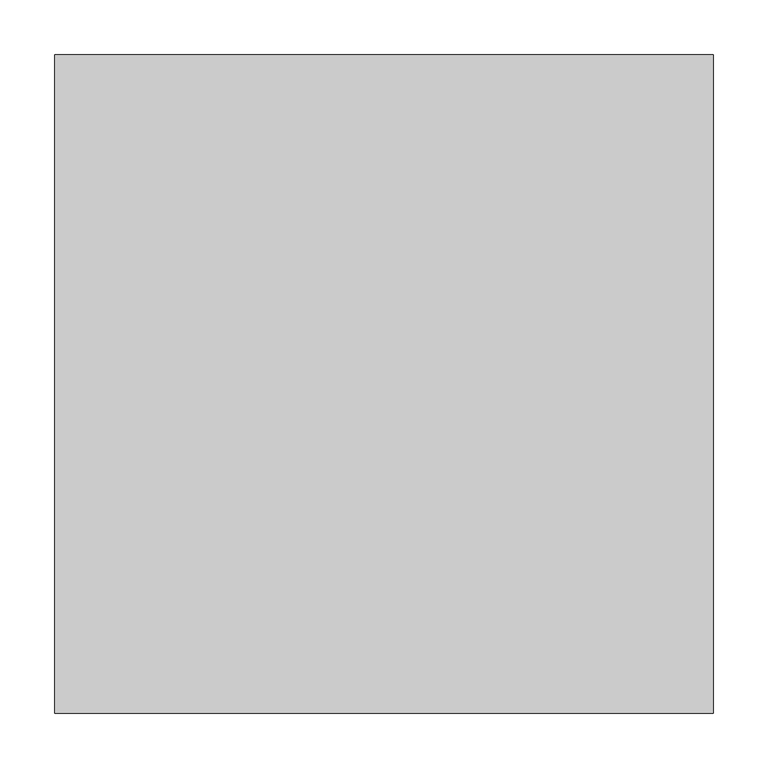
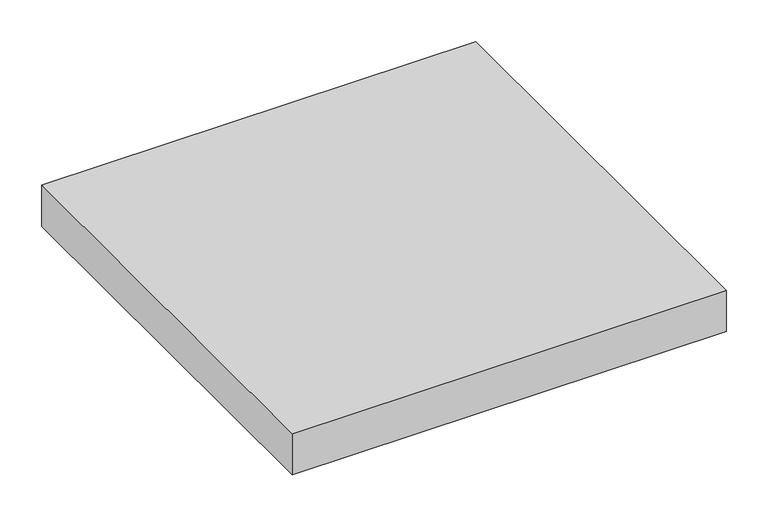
"""IFC4 building model written with IfcOpenShell, lengths in millimetres: light fixture geometry, GENILED_Светильник светодиодный_Office Clip-In Advanced : Office Clip-In Advanced 600x600x60 100Вт IP54 Матовое закаленное стекло."""

from ifc_helpers import new_model, si_unit, frame, origin, place, context, project, spatial, polyline, circle_curve, source, transform, mapped, element, save
from ifc_brep_helpers import plane_surface, revolved_surface, advanced_brep


def light_fixture_70e44551(model_context):
    return source(origin(), model_context, "Body", "AdvancedBrep", [
        advanced_brep(
        [(300.0, 300.0, 60.0), (-300.0, 300.0, 60.0), (-300.0, -300.0, 60.0), (300.0, -300.0, 60.0), (300.0, 300.0, 0.0), (300.0, -300.0, 0.0), (-300.0, -300.0, 0.0), (-300.0, 300.0, 0.0), (254.0, 264.0, 0.0), (-254.0, 264.0, 0.0), (-264.0, 254.0, 0.0), (-264.0, -254.0, 0.0), (-254.0, -264.0, 0.0), (254.0, -264.0, 0.0), (264.0, -254.0, 0.0), (264.0, 254.0, 0.0), (264.0, -254.0, 5.0), (264.0, 254.0, 5.0), (-254.0, -264.0, 5.0), (254.0, -264.0, 5.0), (-264.0, 254.0, 5.0), (-264.0, -254.0, 5.0), (254.0, 264.0, 5.0), (-254.0, 264.0, 5.0)],
        [
            (0, 1),
            (1, 2),
            (2, 3),
            (3, 0),
            (4, 5),
            (5, 6),
            (6, 7),
            (7, 4),
            (8, 9),
            (9, 10, circle_curve(frame((-254.0, 254.0, 0.0), z_axis=(0.0, 0.0, 1.0), x_axis=(1.0, 0.0, 0.0)), 10.0)),
            (10, 11),
            (11, 12, circle_curve(frame((-254.0, -254.0, 0.0), z_axis=(0.0, 0.0, 1.0), x_axis=(1.0, 0.0, 0.0)), 10.0)),
            (12, 13),
            (13, 14, circle_curve(frame((254.0, -254.0, 0.0), z_axis=(0.0, 0.0, 1.0), x_axis=(1.0, 0.0, 0.0)), 10.0)),
            (14, 15),
            (15, 8, circle_curve(frame((254.0, 254.0, 0.0), z_axis=(0.0, 0.0, 1.0), x_axis=(1.0, 0.0, 0.0)), 10.0)),
            (0, 4),
            (7, 1),
            (6, 2),
            (5, 3),
            (14, 16),
            (16, 17),
            (17, 15),
            (12, 18),
            (18, 19),
            (19, 13),
            (10, 20),
            (20, 21),
            (21, 11),
            (8, 22),
            (22, 23),
            (23, 9),
            (16, 19, circle_curve(frame((254.0, -254.0, 5.0), z_axis=(0.0, 0.0, -1.0), x_axis=(1.0, 0.0, 0.0)), 10.0)),
            (18, 21, circle_curve(frame((-254.0, -254.0, 5.0), z_axis=(0.0, 0.0, -1.0), x_axis=(1.0, 0.0, 0.0)), 10.0)),
            (20, 23, circle_curve(frame((-254.0, 254.0, 5.0), z_axis=(0.0, 0.0, -1.0), x_axis=(1.0, 0.0, 0.0)), 10.0)),
            (22, 17, circle_curve(frame((254.0, 254.0, 5.0), z_axis=(0.0, 0.0, -1.0), x_axis=(1.0, 0.0, 0.0)), 10.0)),
        ],
        [
            plane_surface(frame((-300.0, 300.0, 60.0), z_axis=(0.0, 0.0, 1.0), x_axis=(-1.0, 0.0, 0.0))),
            plane_surface(frame((-300.0, 300.0, 0.0), z_axis=(0.0, 0.0, -1.0), x_axis=(1.0, 0.0, 0.0))),
            plane_surface(frame((300.0, 300.0, 60.0), z_axis=(0.0, 1.0, 0.0), x_axis=(0.0, 0.0, -1.0))),
            plane_surface(frame((-300.0, 300.0, 60.0), z_axis=(-1.0, 0.0, 0.0), x_axis=(0.0, 0.0, -1.0))),
            plane_surface(frame((-300.0, -300.0, 60.0), z_axis=(0.0, -1.0, 0.0), x_axis=(0.0, 0.0, -1.0))),
            plane_surface(frame((300.0, -300.0, 60.0), z_axis=(1.0, 0.0, 0.0), x_axis=(0.0, 0.0, -1.0))),
            plane_surface(frame((264.0, 254.0, 60.0), z_axis=(-1.0, 0.0, 0.0), x_axis=(0.0, 0.0, -1.0))),
            plane_surface(frame((254.0, -264.0, 60.0), z_axis=(0.0, 1.0, 0.0), x_axis=(0.0, 0.0, -1.0))),
            plane_surface(frame((-264.0, -254.0, 60.0), z_axis=(1.0, 0.0, 0.0), x_axis=(0.0, 0.0, -1.0))),
            plane_surface(frame((-254.0, 264.0, 60.0), z_axis=(0.0, -1.0, 0.0), x_axis=(0.0, 0.0, -1.0))),
            plane_surface(frame((-254.0, 264.0, 5.0), z_axis=(0.0, 0.0, -1.0), x_axis=(1.0, 0.0, 0.0))),
            revolved_surface(polyline([(264.0, 254.0, 0.0), (264.0, 254.0, 5.0)]), (254.0, 254.0, 0.0), (0.0, 0.0, -1.0)),
            revolved_surface(polyline([(264.0, -254.0, 0.0), (264.0, -254.0, 5.0)]), (254.0, -254.0, 0.0), (0.0, 0.0, -1.0)),
            revolved_surface(polyline([(-244.0, -254.0, 0.0), (-244.0, -254.0, 5.0)]), (-254.0, -254.0, 0.0), (0.0, 0.0, -1.0)),
            revolved_surface(polyline([(-244.0, 254.0, 0.0), (-244.0, 254.0, 5.0)]), (-254.0, 254.0, 0.0), (0.0, 0.0, -1.0)),
        ],
        [
            (0, [[1, 2, 3, 4]]),
            (1, [[5, 6, 7, 8], [9, 10, 11, 12, 13, 14, 15, 16]]),
            (2, [[-1, 17, -8, 18]]),
            (3, [[-2, -18, -7, 19]]),
            (4, [[-3, -19, -6, 20]]),
            (5, [[-4, -20, -5, -17]]),
            (6, [[-15, 21, 22, 23]]),
            (7, [[-13, 24, 25, 26]]),
            (8, [[-11, 27, 28, 29]]),
            (9, [[-9, 30, 31, 32]]),
            (10, [[-22, 33, -25, 34, -28, 35, -31, 36]]),
            (11, [[-16, -23, -36, -30]]),
            (12, [[-14, -26, -33, -21]]),
            (13, [[-12, -29, -34, -24]]),
            (14, [[-10, -32, -35, -27]]),
        ],
    ),
    ])


if __name__ == "__main__":
    model = new_model("IFC4")
    model_context = context("Model", 3, world=origin())
    ifc_project = project(units=[si_unit("LENGTHUNIT", "METRE", prefix="MILLI")], contexts=[model_context])
    site = spatial("IfcSite", under=ifc_project)
    building = spatial("IfcBuilding", under=site)
    placement = place(None, origin())
    light_fixture_shape = light_fixture_70e44551(model_context)
    element("IfcLightFixture", 1, ObjectType="GENILED_Светильник светодиодный_Office Clip-In Advanced : Office Clip-In Advanced 600x600x60 100Вт IP54 Матовое закаленное стекло", at=placement, inside=building, context=model_context, shape_type="MappedRepresentation", body=[
        mapped(light_fixture_shape, transform((0.0, 0.0, 0.0), x_axis=(1.0, 0.0, 0.0), y_axis=(0.0, 1.0, 0.0), z_axis=(0.0, 0.0, 1.0))),
    ])
    save(model, "model.ifc")
